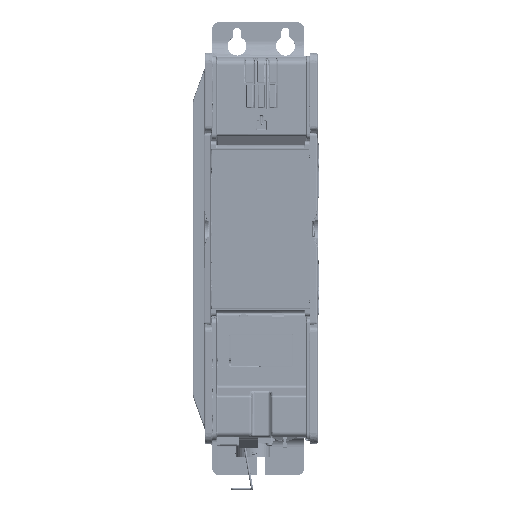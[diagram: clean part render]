
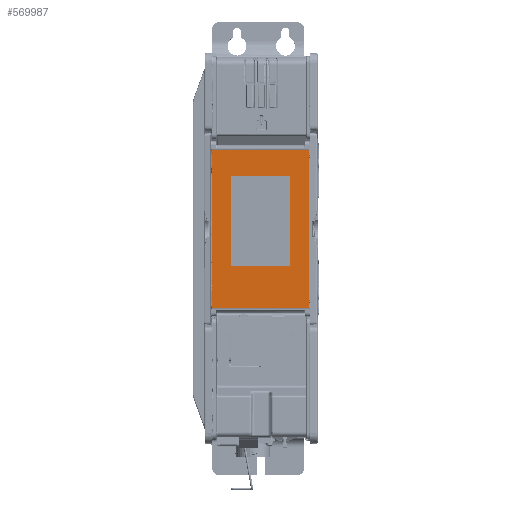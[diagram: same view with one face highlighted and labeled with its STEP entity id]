
A CAD part, top view. The second image highlights one B-rep face of the part: STEP entity #569987.
In plain terms, the highlighted planar face has unit normal (-0.052, 0, 0.999).
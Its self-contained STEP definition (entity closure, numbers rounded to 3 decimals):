
#569859=DIRECTION('',(-0.999,0.,-0.052));
#569860=VECTOR('',#569859,80.6);
#569861=CARTESIAN_POINT('',(44.642,112.372,
301.341));
#569862=LINE('',#569861,#569860);
#569863=DIRECTION('',(0.,1.,0.));
#569864=VECTOR('',#569863,130.254);
#569865=CARTESIAN_POINT('',(-35.847,112.372,
297.123));
#569866=LINE('',#569865,#569864);
#569867=DIRECTION('',(0.999,0.,0.052));
#569868=VECTOR('',#569867,80.6);
#569869=CARTESIAN_POINT('',(-35.847,242.626,
297.123));
#569870=LINE('',#569869,#569868);
#569871=DIRECTION('',(0.,-1.,0.));
#569872=VECTOR('',#569871,130.254);
#569873=CARTESIAN_POINT('',(44.642,242.626,
301.341));
#569874=LINE('',#569873,#569872);
#569875=DIRECTION('',(0.,-1.,0.));
#569876=VECTOR('',#569875,74.04);
#569877=CARTESIAN_POINT('',(-20.348,221.149,297.935));
#569878=LINE('',#569877,#569876);
#569879=DIRECTION('',(0.999,0.,0.052));
#569880=VECTOR('',#569879,49.56);
#569881=CARTESIAN_POINT('',(-20.348,147.109,297.935));
#569882=LINE('',#569881,#569880);
#569883=DIRECTION('',(0.,1.,0.));
#569884=VECTOR('',#569883,74.04);
#569885=CARTESIAN_POINT('',(29.144,147.109,300.529));
#569886=LINE('',#569885,#569884);
#569887=DIRECTION('',(-0.999,0.,-0.052));
#569888=VECTOR('',#569887,49.56);
#569889=CARTESIAN_POINT('',(29.144,221.149,300.529));
#569890=LINE('',#569889,#569888);
#569911=CARTESIAN_POINT('',(44.642,112.372,
301.341));
#569912=CARTESIAN_POINT('',(-35.847,112.372,
297.123));
#569913=VERTEX_POINT('',#569911);
#569914=VERTEX_POINT('',#569912);
#569919=CARTESIAN_POINT('',(-35.847,242.626,
297.123));
#569920=CARTESIAN_POINT('',(44.642,242.626,
301.341));
#569921=VERTEX_POINT('',#569919);
#569922=VERTEX_POINT('',#569920);
#569931=CARTESIAN_POINT('',(-20.348,221.149,297.935));
#569932=CARTESIAN_POINT('',(-20.348,147.109,297.935));
#569933=VERTEX_POINT('',#569931);
#569934=VERTEX_POINT('',#569932);
#569935=CARTESIAN_POINT('',(29.144,147.109,300.529));
#569936=VERTEX_POINT('',#569935);
#569937=CARTESIAN_POINT('',(29.144,221.149,300.529));
#569938=VERTEX_POINT('',#569937);
#569962=CARTESIAN_POINT('',(-35.847,112.372,
297.123));
#569963=DIRECTION('',(-0.052,0.,0.999));
#569964=DIRECTION('',(0.999,0.,0.052));
#569965=AXIS2_PLACEMENT_3D('',#569962,#569963,#569964);
#569966=PLANE('',#569965);
#569968=ORIENTED_EDGE('',*,*,#569967,.T.);
#569970=ORIENTED_EDGE('',*,*,#569969,.T.);
#569972=ORIENTED_EDGE('',*,*,#569971,.T.);
#569974=ORIENTED_EDGE('',*,*,#569973,.T.);
#569975=EDGE_LOOP('',(#569968,#569970,#569972,#569974));
#569976=FACE_OUTER_BOUND('',#569975,.F.);
#569978=ORIENTED_EDGE('',*,*,#569977,.T.);
#569980=ORIENTED_EDGE('',*,*,#569979,.T.);
#569982=ORIENTED_EDGE('',*,*,#569981,.T.);
#569984=ORIENTED_EDGE('',*,*,#569983,.T.);
#569985=EDGE_LOOP('',(#569978,#569980,#569982,#569984));
#569986=FACE_BOUND('',#569985,.F.);
#569967=EDGE_CURVE('',#569913,#569914,#569862,.T.);
#569969=EDGE_CURVE('',#569914,#569921,#569866,.T.);
#569971=EDGE_CURVE('',#569921,#569922,#569870,.T.);
#569973=EDGE_CURVE('',#569922,#569913,#569874,.T.);
#569977=EDGE_CURVE('',#569933,#569934,#569878,.T.);
#569979=EDGE_CURVE('',#569934,#569936,#569882,.T.);
#569981=EDGE_CURVE('',#569936,#569938,#569886,.T.);
#569983=EDGE_CURVE('',#569938,#569933,#569890,.T.);
#569987=ADVANCED_FACE('',(#569976,#569986),#569966,.T.);
